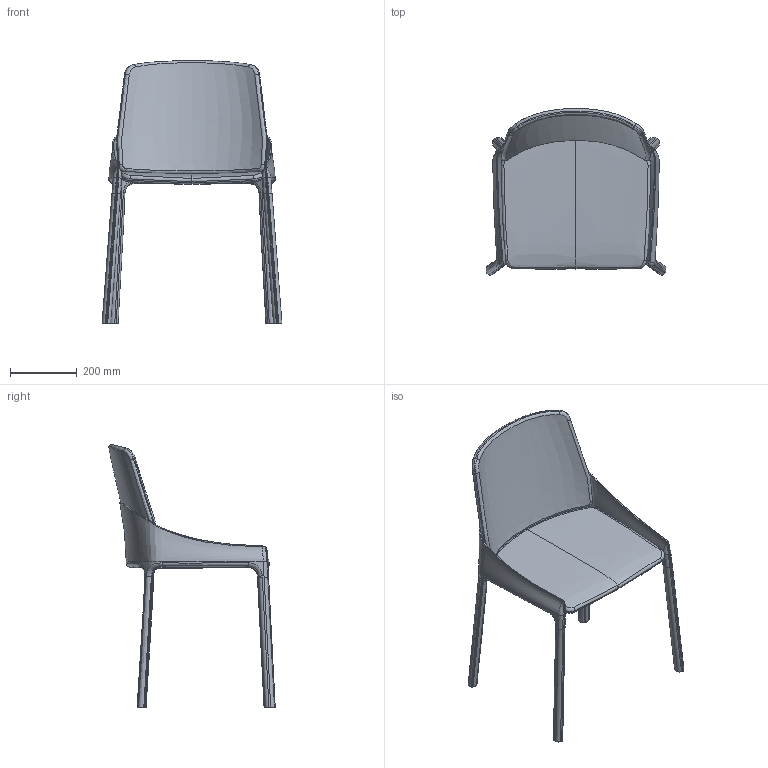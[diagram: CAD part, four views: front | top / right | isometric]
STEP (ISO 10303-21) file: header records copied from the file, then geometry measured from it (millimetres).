
FILE_DESCRIPTION(/* description */ (''),/* implementation_level */ '2;1');
FILE_NAME(/* name */ 'PLIE_chair',/* time_stamp */ '2016-06-13T10:55:29+02:00',/* author */ (''),/* organization */ (''),/* preprocessor_version */ 'ST-DEVELOPER v10',/* originating_system */ '',/* authorisation */ '');
FILE_SCHEMA (('CONFIG_CONTROL_DESIGN'));
Length unit declared in the file: millimetre
Products named in the file (1): 1
Bounding box: 537.76 x 497.59 x 785.12 mm (x, y, z)
Volume: 5941164.6 mm3; surface area: 1153087.2 mm2
Topology: 2 solids, 3 shells, 250 faces, 707 edges, 444 vertices
Faces by surface type: bspline 246, plane 4
Entity records: 64822 total; most frequent: CARTESIAN_POINT 60613, ORIENTED_EDGE 1374, EDGE_CURVE 705, B_SPLINE_CURVE_WITH_KNOTS 633, VERTEX_POINT 444, ADVANCED_FACE 250, FACE_OUTER_BOUND 250, EDGE_LOOP 250
